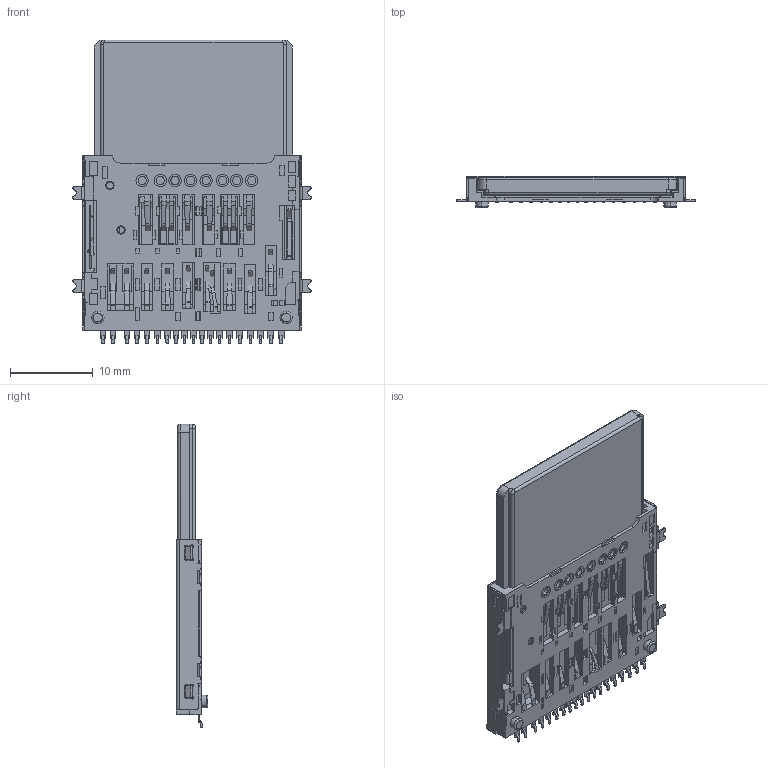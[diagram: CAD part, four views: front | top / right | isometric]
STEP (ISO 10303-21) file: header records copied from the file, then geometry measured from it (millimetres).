
FILE_DESCRIPTION((''),'2;1');
FILE_NAME('SD4_0_NON_PUSH_H3_13_ASM','2024-07-08T11:53:51',('Administrator'),(''),'CREO PARAMETRIC BY PTC INC, 2020053','CREO PARAMETRIC BY PTC INC, 2020053','');
FILE_SCHEMA(('AUTOMOTIVE_DESIGN { 1 0 10303 214 1 1 1 1 }'));
Products named in the file (7): PRT0002; PRT0003; ASM0005_ASM_ASM; ASM0004_ASM_ASM; SD-CARD4_0_1; ASM0003_ASM_1_ASM; SD4_0_NON_PUSH_H3_13_ASM
Assembly tree (6 placements, depth 5):
  SD4_0_NON_PUSH_H3_13_ASM
    ASM0003_ASM_1_ASM
      ASM0004_ASM_ASM
        ASM0005_ASM_ASM
          PRT0002
          PRT0003
      SD-CARD4_0_1
Bounding box: 28.85 x 3.83 x 36.8 mm (x, y, z)
Volume: 1910 mm3; surface area: 4581.5 mm2
Topology: 3 solids, 3 shells, 2322 faces, 6131 edges, 3880 vertices
Faces by surface type: plane 1660, cylinder 575, bspline 55, sphere 16, cone 8, torus 8
Entity records: 73015 total; most frequent: CARTESIAN_POINT 15371, ORIENTED_EDGE 12226, DIRECTION 11352, EDGE_CURVE 6113, VECTOR 4786, LINE 4786, VERTEX_POINT 3880, AXIS2_PLACEMENT_3D 3283
